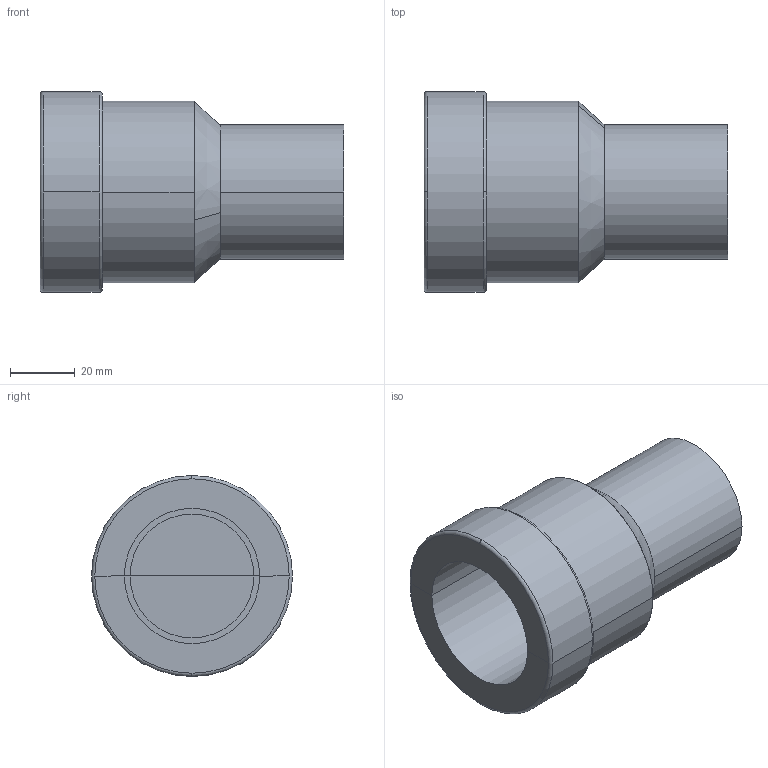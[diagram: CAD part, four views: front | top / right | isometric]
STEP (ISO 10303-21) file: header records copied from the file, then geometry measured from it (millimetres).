
FILE_DESCRIPTION (( 'STEP AP203' ), '1' );
FILE_NAME ('Viega_MegaPress_Coupling,Transition4813-4ZL - 1-1_2in.STEP', '2025-02-21T14:51:12', ( '' ), ( '' ), 'SwSTEP 2.0', 'SolidWorks 2020', '' );
FILE_SCHEMA (( 'CONFIG_CONTROL_DESIGN' ));
Length unit declared in the file: millimetre
Products named in the file (1): Viega_MegaPress_Coupling,Transition4813-4ZL - 1-1_2in
Bounding box: 93.62 x 61.9 x 61.9 mm (x, y, z)
Volume: 189964.8 mm3; surface area: 48992.3 mm2
Topology: 5 solids, 5 shells, 36 faces, 76 edges, 48 vertices
Faces by surface type: plane 16, cylinder 14, torus 4, cone 2
Entity records: 1065 total; most frequent: DIRECTION 202, CARTESIAN_POINT 161, ORIENTED_EDGE 152, AXIS2_PLACEMENT_3D 89, EDGE_CURVE 76, CIRCLE 52, VERTEX_POINT 48, EDGE_LOOP 38
